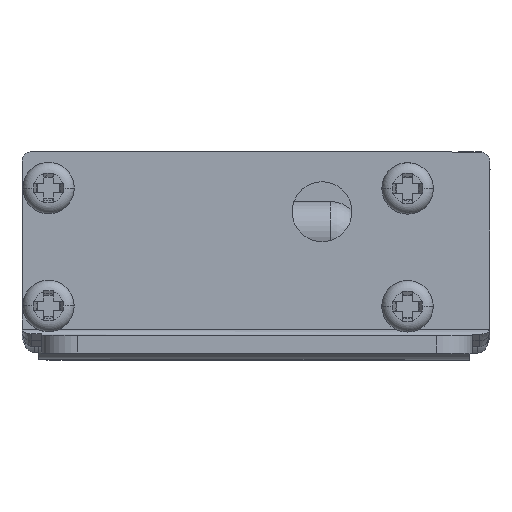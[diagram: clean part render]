
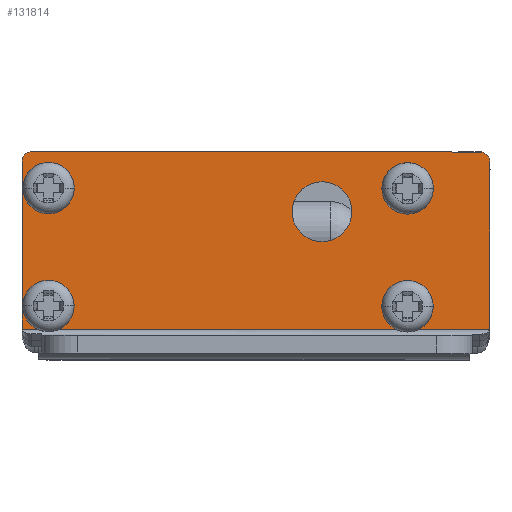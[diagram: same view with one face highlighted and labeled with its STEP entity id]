
A CAD part, top view. The second image highlights one B-rep face of the part: STEP entity #131814.
In plain terms, the highlighted planar face has unit normal (0, 0, 1) as drawn and (-1, 0, 0) by its records, which use the part's own axes.
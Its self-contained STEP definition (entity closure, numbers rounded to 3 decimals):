
#130762=CARTESIAN_POINT('',(-15.899,2.032,
-18.812));
#130763=DIRECTION('',(-1.,0.,0.));
#130764=DIRECTION('',(0.,0.,-1.));
#130765=AXIS2_PLACEMENT_3D('',#130762,#130763,#130764);
#130770=DIRECTION('',(0.,-1.,0.));
#130771=VECTOR('',#130770,14.031);
#130772=CARTESIAN_POINT('',(-15.899,16.063,
-19.612));
#130773=LINE('',#130772,#130771);
#130777=CARTESIAN_POINT('',(-15.899,16.063,
-18.812));
#130778=DIRECTION('',(-1.,0.,0.));
#130779=DIRECTION('',(0.,1.,0.));
#130780=AXIS2_PLACEMENT_3D('',#130777,#130778,#130779);
#130785=DIRECTION('',(0.,0.,-1.));
#130786=VECTOR('',#130785,37.448);
#130787=CARTESIAN_POINT('',(-15.899,16.863,
18.635));
#130788=LINE('',#130787,#130786);
#130792=CARTESIAN_POINT('',(-15.899,16.063,
18.635));
#130793=DIRECTION('',(-1.,0.,0.));
#130794=DIRECTION('',(0.,0.,1.));
#130795=AXIS2_PLACEMENT_3D('',#130792,#130793,#130794);
#130800=DIRECTION('',(0.,1.,0.));
#130801=VECTOR('',#130800,14.031);
#130802=CARTESIAN_POINT('',(-15.899,2.032,
19.435));
#130803=LINE('',#130802,#130801);
#130807=CARTESIAN_POINT('',(-15.899,2.032,
18.635));
#130808=DIRECTION('',(-1.,0.,0.));
#130809=DIRECTION('',(0.,-0.04,0.999));
#130810=AXIS2_PLACEMENT_3D('',#130807,#130808,#130809);
#130815=CARTESIAN_POINT('',(-15.899,13.813,
12.585));
#130816=DIRECTION('',(-1.,0.,0.));
#130817=DIRECTION('',(0.,-1.,0.));
#130818=AXIS2_PLACEMENT_3D('',#130815,#130816,#130817);
#130823=CARTESIAN_POINT('',(-15.899,13.813,
12.585));
#130824=DIRECTION('',(-1.,0.,0.));
#130825=DIRECTION('',(0.,1.,0.));
#130826=AXIS2_PLACEMENT_3D('',#130823,#130824,#130825);
#130831=CARTESIAN_POINT('',(-15.899,13.813,
-17.415));
#130832=DIRECTION('',(-1.,0.,0.));
#130833=DIRECTION('',(0.,-1.,0.));
#130834=AXIS2_PLACEMENT_3D('',#130831,#130832,#130833);
#130839=CARTESIAN_POINT('',(-15.899,13.813,
-17.415));
#130840=DIRECTION('',(-1.,0.,0.));
#130841=DIRECTION('',(0.,1.,0.));
#130842=AXIS2_PLACEMENT_3D('',#130839,#130840,#130841);
#130847=CARTESIAN_POINT('',(-15.899,3.963,
12.585));
#130848=DIRECTION('',(-1.,0.,0.));
#130849=DIRECTION('',(0.,-1.,0.));
#130850=AXIS2_PLACEMENT_3D('',#130847,#130848,#130849);
#130855=CARTESIAN_POINT('',(-15.899,3.963,
12.585));
#130856=DIRECTION('',(-1.,0.,0.));
#130857=DIRECTION('',(0.,1.,0.));
#130858=AXIS2_PLACEMENT_3D('',#130855,#130856,#130857);
#130863=CARTESIAN_POINT('',(-15.899,3.963,
-17.462));
#130864=DIRECTION('',(-1.,0.,0.));
#130865=DIRECTION('',(0.,-1.,0.));
#130866=AXIS2_PLACEMENT_3D('',#130863,#130864,#130865);
#130871=CARTESIAN_POINT('',(-15.899,3.963,
-17.462));
#130872=DIRECTION('',(-1.,0.,0.));
#130873=DIRECTION('',(0.,1.,0.));
#130874=AXIS2_PLACEMENT_3D('',#130871,#130872,#130873);
#130879=CARTESIAN_POINT('',(-15.899,11.863,
5.435));
#130880=DIRECTION('',(1.,0.,0.));
#130881=DIRECTION('',(0.,1.,0.));
#130882=AXIS2_PLACEMENT_3D('',#130879,#130880,#130881);
#130887=CARTESIAN_POINT('',(-15.899,11.863,
5.435));
#130888=DIRECTION('',(1.,0.,0.));
#130889=DIRECTION('',(0.,-1.,0.));
#130890=AXIS2_PLACEMENT_3D('',#130887,#130888,#130889);
#130895=DIRECTION('',(0.,0.,1.));
#130896=VECTOR('',#130895,39.046);
#130897=CARTESIAN_POINT('',(-15.899,2.,-19.612));
#130898=LINE('',#130897,#130896);
#131236=CARTESIAN_POINT('',(-15.899,2.032,
19.435));
#131237=CARTESIAN_POINT('',(-15.899,16.063,
19.435));
#131238=VERTEX_POINT('',#131236);
#131239=VERTEX_POINT('',#131237);
#131240=CARTESIAN_POINT('',(-15.899,16.863,
18.635));
#131241=CARTESIAN_POINT('',(-15.899,16.863,
-18.812));
#131242=VERTEX_POINT('',#131240);
#131243=VERTEX_POINT('',#131241);
#131244=CARTESIAN_POINT('',(-15.899,16.063,
-19.612));
#131245=CARTESIAN_POINT('',(-15.899,2.032,
-19.612));
#131246=VERTEX_POINT('',#131244);
#131247=VERTEX_POINT('',#131245);
#131272=CARTESIAN_POINT('',(-15.899,2.,-19.612));
#131273=CARTESIAN_POINT('',(-15.899,2.,19.435));
#131274=VERTEX_POINT('',#131272);
#131275=VERTEX_POINT('',#131273);
#131300=CARTESIAN_POINT('',(-15.899,12.463,
12.585));
#131301=CARTESIAN_POINT('',(-15.899,15.163,
12.585));
#131302=VERTEX_POINT('',#131300);
#131303=VERTEX_POINT('',#131301);
#131308=CARTESIAN_POINT('',(-15.899,12.463,
-17.415));
#131309=CARTESIAN_POINT('',(-15.899,15.163,
-17.415));
#131310=VERTEX_POINT('',#131308);
#131311=VERTEX_POINT('',#131309);
#131316=CARTESIAN_POINT('',(-15.899,2.613,
12.585));
#131317=CARTESIAN_POINT('',(-15.899,5.313,
12.585));
#131318=VERTEX_POINT('',#131316);
#131319=VERTEX_POINT('',#131317);
#131324=CARTESIAN_POINT('',(-15.899,2.613,
-17.462));
#131325=CARTESIAN_POINT('',(-15.899,5.313,
-17.462));
#131326=VERTEX_POINT('',#131324);
#131327=VERTEX_POINT('',#131325);
#131332=CARTESIAN_POINT('',(-15.899,14.363,
5.435));
#131333=CARTESIAN_POINT('',(-15.899,9.363,
5.435));
#131334=VERTEX_POINT('',#131332);
#131335=VERTEX_POINT('',#131333);
#131768=CARTESIAN_POINT('',(-15.899,16.863,0.));
#131769=DIRECTION('',(-1.,0.,0.));
#131770=DIRECTION('',(0.,1.,0.));
#131771=AXIS2_PLACEMENT_3D('',#131768,#131769,#131770);
#131772=PLANE('',#131771);
#131774=ORIENTED_EDGE('',*,*,#131773,.F.);
#131775=ORIENTED_EDGE('',*,*,#131694,.F.);
#131776=ORIENTED_EDGE('',*,*,#131707,.F.);
#131777=ORIENTED_EDGE('',*,*,#131721,.F.);
#131778=ORIENTED_EDGE('',*,*,#131735,.F.);
#131779=ORIENTED_EDGE('',*,*,#131749,.F.);
#131780=ORIENTED_EDGE('',*,*,#131762,.F.);
#131781=ORIENTED_EDGE('',*,*,#131459,.F.);
#131782=EDGE_LOOP('',(#131774,#131775,#131776,#131777,#131778,#131779,#131780,
#131781));
#131783=FACE_OUTER_BOUND('',#131782,.F.);
#131785=ORIENTED_EDGE('',*,*,#131784,.T.);
#131787=ORIENTED_EDGE('',*,*,#131786,.T.);
#131788=EDGE_LOOP('',(#131785,#131787));
#131789=FACE_BOUND('',#131788,.F.);
#131791=ORIENTED_EDGE('',*,*,#131790,.T.);
#131793=ORIENTED_EDGE('',*,*,#131792,.T.);
#131794=EDGE_LOOP('',(#131791,#131793));
#131795=FACE_BOUND('',#131794,.F.);
#131797=ORIENTED_EDGE('',*,*,#131796,.T.);
#131799=ORIENTED_EDGE('',*,*,#131798,.T.);
#131800=EDGE_LOOP('',(#131797,#131799));
#131801=FACE_BOUND('',#131800,.F.);
#131803=ORIENTED_EDGE('',*,*,#131802,.T.);
#131805=ORIENTED_EDGE('',*,*,#131804,.T.);
#131806=EDGE_LOOP('',(#131803,#131805));
#131807=FACE_BOUND('',#131806,.F.);
#131809=ORIENTED_EDGE('',*,*,#131808,.F.);
#131811=ORIENTED_EDGE('',*,*,#131810,.F.);
#131812=EDGE_LOOP('',(#131809,#131811));
#131813=FACE_BOUND('',#131812,.F.);
#130766=CIRCLE('',#130765,0.8);
#130781=CIRCLE('',#130780,0.8);
#130796=CIRCLE('',#130795,0.8);
#130811=CIRCLE('',#130810,0.8);
#130819=CIRCLE('',#130818,1.35);
#130827=CIRCLE('',#130826,1.35);
#130835=CIRCLE('',#130834,1.35);
#130843=CIRCLE('',#130842,1.35);
#130851=CIRCLE('',#130850,1.35);
#130859=CIRCLE('',#130858,1.35);
#130867=CIRCLE('',#130866,1.35);
#130875=CIRCLE('',#130874,1.35);
#130883=CIRCLE('',#130882,2.5);
#130891=CIRCLE('',#130890,2.5);
#131459=EDGE_CURVE('',#131275,#131238,#130811,.T.);
#131694=EDGE_CURVE('',#131247,#131274,#130766,.T.);
#131707=EDGE_CURVE('',#131246,#131247,#130773,.T.);
#131721=EDGE_CURVE('',#131243,#131246,#130781,.T.);
#131735=EDGE_CURVE('',#131242,#131243,#130788,.T.);
#131749=EDGE_CURVE('',#131239,#131242,#130796,.T.);
#131762=EDGE_CURVE('',#131238,#131239,#130803,.T.);
#131773=EDGE_CURVE('',#131274,#131275,#130898,.T.);
#131784=EDGE_CURVE('',#131302,#131303,#130819,.T.);
#131786=EDGE_CURVE('',#131303,#131302,#130827,.T.);
#131790=EDGE_CURVE('',#131310,#131311,#130835,.T.);
#131792=EDGE_CURVE('',#131311,#131310,#130843,.T.);
#131796=EDGE_CURVE('',#131318,#131319,#130851,.T.);
#131798=EDGE_CURVE('',#131319,#131318,#130859,.T.);
#131802=EDGE_CURVE('',#131326,#131327,#130867,.T.);
#131804=EDGE_CURVE('',#131327,#131326,#130875,.T.);
#131808=EDGE_CURVE('',#131334,#131335,#130883,.T.);
#131810=EDGE_CURVE('',#131335,#131334,#130891,.T.);
#131814=ADVANCED_FACE('',(#131783,#131789,#131795,#131801,#131807,#131813),
#131772,.T.);
